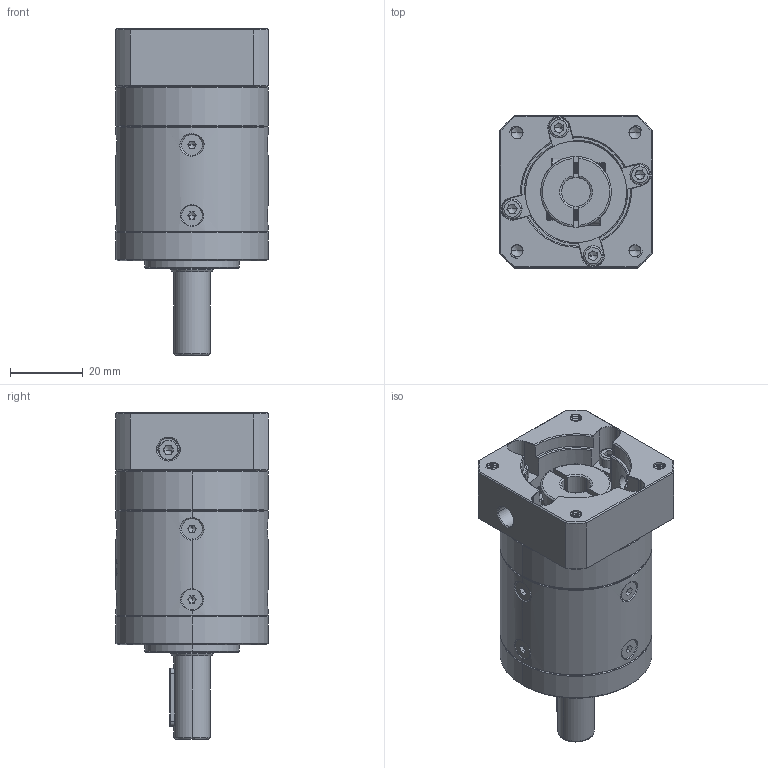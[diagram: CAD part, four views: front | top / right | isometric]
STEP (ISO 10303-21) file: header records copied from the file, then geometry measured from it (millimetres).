
FILE_DESCRIPTION (( 'STEP AP214' ), '1' );
FILE_NAME ('ZE40-L1-P2-8-30-46-M4.STEP', '2023-06-06T13:02:57', ( 'Windows 蚚誧' ), ( 'Organization' ), 'SwSTEP 2.0', 'SolidWorks 2016', '' );
FILE_SCHEMA (( 'AUTOMOTIVE_DESIGN' ));
Length unit declared in the file: millimetre
Products named in the file (1): ZE40-L1-P2-8-30-46-M4
Bounding box: 42 x 42 x 90 mm (x, y, z)
Volume: 80808.7 mm3; surface area: 25311 mm2
Topology: 14 solids, 14 shells, 2149 faces, 5679 edges, 3616 vertices
Faces by surface type: plane 938, cylinder 512, bspline 361, cone 330, torus 8
Entity records: 129279 total; most frequent: CARTESIAN_POINT 56827, ORIENTED_EDGE 11266, DIRECTION 8598, EDGE_CURVE 5633, VERTEX_POINT 3616, LINE 2884, VECTOR 2884, AXIS2_PLACEMENT_3D 2857
